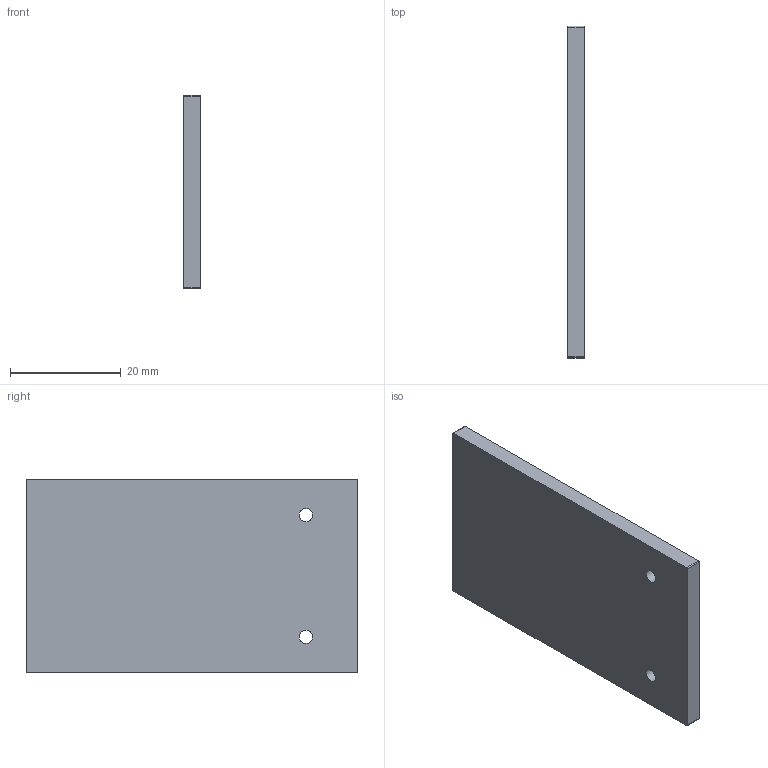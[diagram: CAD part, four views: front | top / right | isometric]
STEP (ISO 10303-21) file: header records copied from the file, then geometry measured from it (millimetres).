
FILE_DESCRIPTION (( 'STEP AP214' ), '1' );
FILE_NAME ('3535 Endcap Square.STEP', '2026-04-20T12:29:42', ( '' ), ( '' ), 'SwSTEP 2.0', 'SolidWorks 2025', '' );
FILE_SCHEMA (( 'AUTOMOTIVE_DESIGN' ));
Length unit declared in the file: millimetre
Products named in the file (1): 3535 Endcap Square
Bounding box: 3 x 60 x 35 mm (x, y, z)
Volume: 6263.1 mm3; surface area: 4789.8 mm2
Topology: 1 solids, 1 shells, 14 faces, 34 edges, 22 vertices
Faces by surface type: cylinder 6, plane 6, cone 2
Full cylindrical faces by diameter (mm): 2.4 x2
Entity records: 427 total; most frequent: DIRECTION 74, CARTESIAN_POINT 67, ORIENTED_EDGE 60, EDGE_CURVE 30, AXIS2_PLACEMENT_3D 29, VERTEX_POINT 22, EDGE_LOOP 22, VECTOR 16
